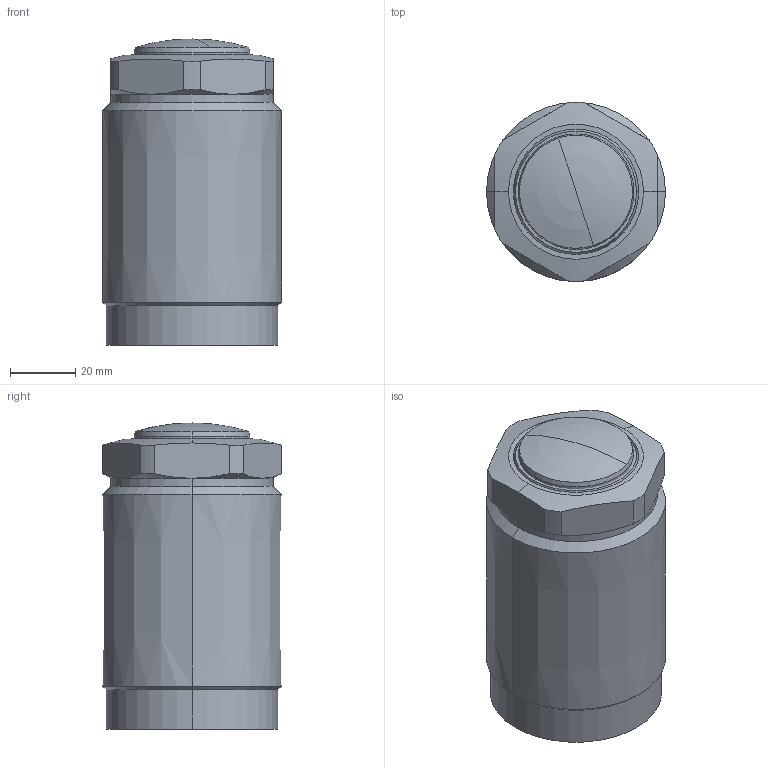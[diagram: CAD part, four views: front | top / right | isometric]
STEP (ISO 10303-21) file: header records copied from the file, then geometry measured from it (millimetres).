
FILE_DESCRIPTION((' '),'2;1');
FILE_NAME( 'TGP55-RL.x_t.stp', '2025-02-10T16:03:57', (' '), ('--- Datakit www.datakit.com---'), ' Datakit CrossCadWare V2024.1 Dec 21 2023', 'Mastercam 2025', ' ');
FILE_SCHEMA(('AUTOMOTIVE_DESIGN { 1 0 10303 214 1 1 1 1 }'));
Length unit declared in the file: millimetre
Products named in the file (1): TGP55-RL
Bounding box: 55 x 55 x 94 mm (x, y, z)
Volume: 236159.4 mm3; surface area: 26695.4 mm2
Topology: 2 solids, 2 shells, 64 faces, 148 edges, 90 vertices
Faces by surface type: cylinder 24, cone 20, plane 14, torus 6
Entity records: 1922 total; most frequent: CARTESIAN_POINT 435, DIRECTION 334, ORIENTED_EDGE 288, AXIS2_PLACEMENT_3D 145, EDGE_CURVE 144, VERTEX_POINT 90, CIRCLE 80, EDGE_LOOP 70
